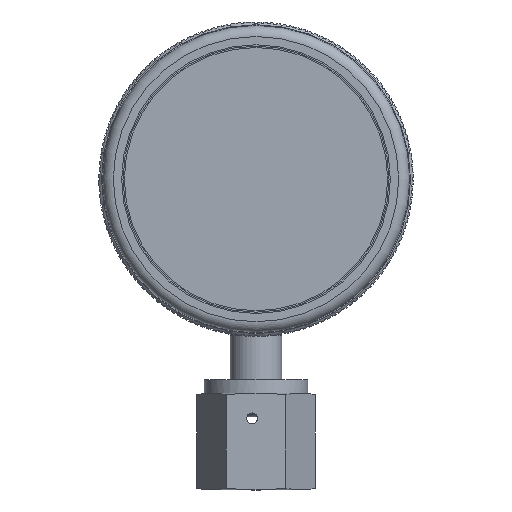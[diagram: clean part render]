
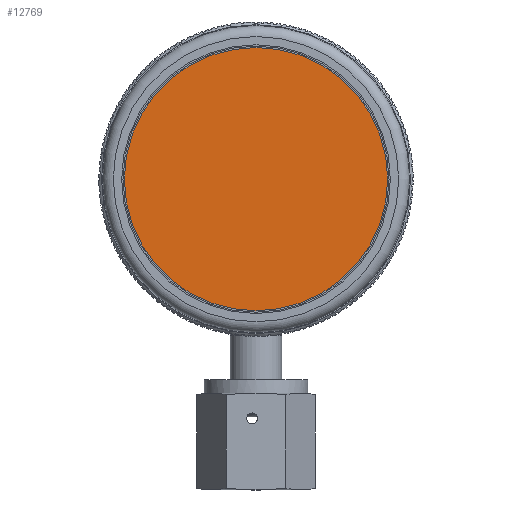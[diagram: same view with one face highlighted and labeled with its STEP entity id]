
A CAD part, top view. The second image highlights one B-rep face of the part: STEP entity #12769.
In plain terms, the highlighted planar face has unit normal (0, 0, 1) as drawn and (-1, 0, 0) by its records, which use the part's own axes.
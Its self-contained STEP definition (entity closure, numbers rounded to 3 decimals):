
#528=PLANE('',#13951);
#4028=FACE_OUTER_BOUND('',#4687,.T.);
#4687=EDGE_LOOP('',(#11914));
#5212=CIRCLE('',#13950,24.501);
#6440=VERTEX_POINT('',#21279);
#8275=EDGE_CURVE('',#6440,#6440,#5212,.T.);
#11914=ORIENTED_EDGE('',*,*,#8275,.F.);
#12769=ADVANCED_FACE('',(#4028),#528,.T.);
#13950=AXIS2_PLACEMENT_3D('',#21280,#17467,#17468);
#13951=AXIS2_PLACEMENT_3D('',#21282,#17470,#17471);
#17467=DIRECTION('center_axis',(1.,0.,0.));
#17468=DIRECTION('ref_axis',(0.,0.,1.));
#17470=DIRECTION('center_axis',(-1.,0.,0.));
#17471=DIRECTION('ref_axis',(0.,0.,1.));
#21279=CARTESIAN_POINT('',(169.936,108.808,-24.501));
#21280=CARTESIAN_POINT('Origin',(169.936,108.808,0.));
#21282=CARTESIAN_POINT('Origin',(169.936,108.808,0.));
